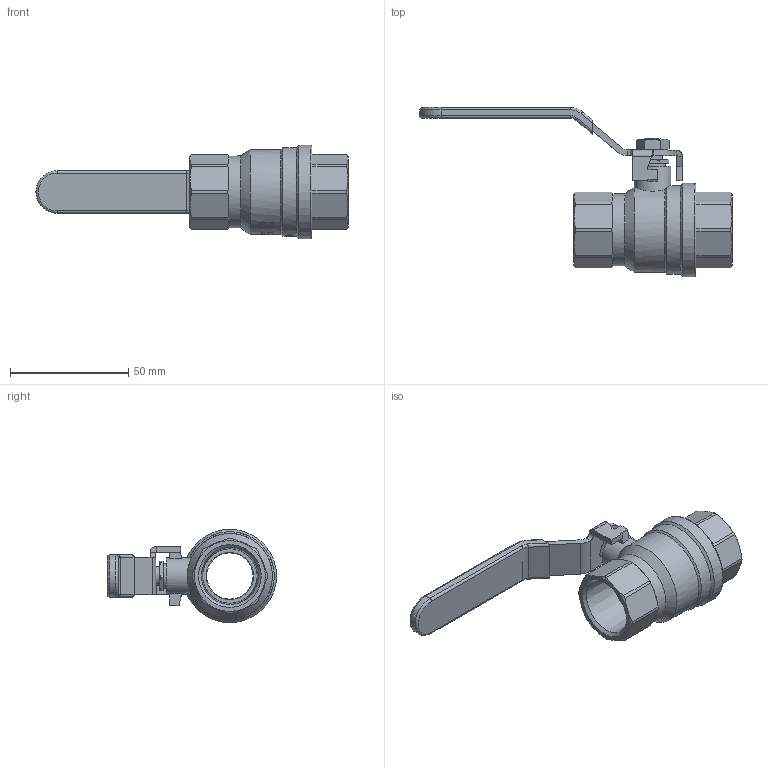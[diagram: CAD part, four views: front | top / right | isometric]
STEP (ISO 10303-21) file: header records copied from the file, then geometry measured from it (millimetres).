
FILE_DESCRIPTION((''),'2;1');
FILE_NAME('P:\Fastrack\53972_CRANE 3D\Fig100YL\100YL-34\100YL-34.stp','2011-01-27T16:14:09',('btaylor'),(''),'Autodesk Inventor 2008','Autodesk Inventor 2008','');
FILE_SCHEMA(('AUTOMOTIVE_DESIGN { 1 0 10303 214 1 1 1 1 }'));
Length unit declared in the file: millimetre
Products named in the file (1): 100YL-34
Bounding box: 132.1 x 71.56 x 39.5 mm (x, y, z)
Volume: 48190.3 mm3; surface area: 32175.6 mm2
Topology: 7 solids, 8 shells, 1644 faces, 4350 edges, 2876 vertices
Faces by surface type: plane 871, bspline 579, cylinder 105, cone 70, torus 16, sphere 3
Full cylindrical faces by diameter (mm): 8 x1, 8.1 x2, 8.3 x1, 9 x1, 9.5 x1, 10.5 x1, 10.6 x1, 10.75 x1, 15.5 x1, 17 x1, 19.6 x1, 20 x2, 26 x2, 27 x4, 30.5 x1, 32.5 x1, 34 x1, 34.2 x1, 36 x1, 37.5 x1, 39.5 x1
Entity records: 124190 total; most frequent: CARTESIAN_POINT 86052, ORIENTED_EDGE 8508, DIRECTION 5432, EDGE_CURVE 4254, VERTEX_POINT 2842, VECTOR 2634, LINE 2634, EDGE_LOOP 1890
